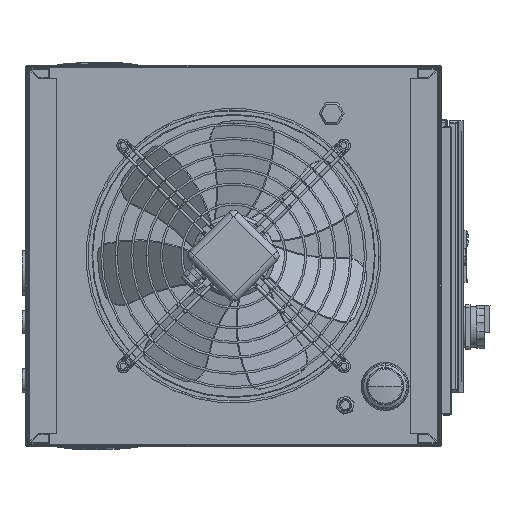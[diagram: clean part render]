
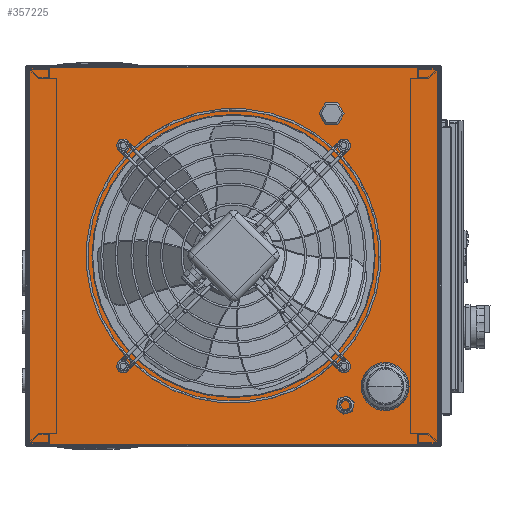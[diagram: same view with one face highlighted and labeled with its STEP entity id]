
A CAD part, top view. The second image highlights one B-rep face of the part: STEP entity #357225.
In plain terms, the highlighted planar face has unit normal (0, 0, 1).
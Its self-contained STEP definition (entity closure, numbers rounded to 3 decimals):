
#5766 = EDGE_LOOP ( 'NONE', ( #342762, #342744, #342750, #342742 ) ) ;
#6377 = EDGE_LOOP ( 'NONE', ( #342708, #342725 ) ) ;
#6925 = EDGE_LOOP ( 'NONE', ( #342718, #342716 ) ) ;
#7001 = EDGE_LOOP ( 'NONE', ( #339483, #339852 ) ) ;
#7061 = EDGE_LOOP ( 'NONE', ( #342733, #342673 ) ) ;
#9257 = EDGE_LOOP ( 'NONE', ( #342702, #342714 ) ) ;
#27870 = CARTESIAN_POINT ( 'NONE',  ( 448.867, -160.867, 443.5 ) ) ;
#28629 = CARTESIAN_POINT ( 'NONE',  ( 127.133, 160.867, 443.5 ) ) ;
#29313 = CARTESIAN_POINT ( 'NONE',  ( 448.867, 160.867, 443.5 ) ) ;
#74735 = AXIS2_PLACEMENT_3D ( 'NONE', #338999, #339002, #339005 ) ;
#74752 = AXIS2_PLACEMENT_3D ( 'NONE', #339107, #339111, #339114 ) ;
#74768 = AXIS2_PLACEMENT_3D ( 'NONE', #339203, #339206, #339210 ) ;
#74786 = AXIS2_PLACEMENT_3D ( 'NONE', #339301, #339304, #339307 ) ;
#74802 = AXIS2_PLACEMENT_3D ( 'NONE', #339395, #339399, #339403 ) ;
#74805 = AXIS2_PLACEMENT_3D ( 'NONE', #339453, #339455, #339458 ) ;
#74810 = AXIS2_PLACEMENT_3D ( 'NONE', #339468, #339471, #339474 ) ;
#74814 = AXIS2_PLACEMENT_3D ( 'NONE', #339482, #339485, #339489 ) ;
#74818 = AXIS2_PLACEMENT_3D ( 'NONE', #339500, #339503, #339505 ) ;
#74823 = AXIS2_PLACEMENT_3D ( 'NONE', #339517, #339520, #339523 ) ;
#145361 = CARTESIAN_POINT ( 'NONE',  ( -3., -275., 443.5 ) ) ;
#156895 = CARTESIAN_POINT ( 'NONE',  ( 467.867, 160.867, 443.5 ) ) ;
#157248 = CARTESIAN_POINT ( 'NONE',  ( 91., 0., 443.5 ) ) ;
#202106 = VERTEX_POINT ( 'NONE', #430849 ) ;
#202110 = VERTEX_POINT ( 'NONE', #430888 ) ;
#202118 = VERTEX_POINT ( 'NONE', #430916 ) ;
#202122 = VERTEX_POINT ( 'NONE', #430934 ) ;
#202135 = VERTEX_POINT ( 'NONE', #431166 ) ;
#202359 = VERTEX_POINT ( 'NONE', #27870 ) ;
#202381 = VERTEX_POINT ( 'NONE', #28629 ) ;
#202407 = VERTEX_POINT ( 'NONE', #29313 ) ;
#202662 = VERTEX_POINT ( 'NONE', #156895 ) ;
#202677 = VERTEX_POINT ( 'NONE', #157248 ) ;
#203067 = VERTEX_POINT ( 'NONE', #220995 ) ;
#203294 = VERTEX_POINT ( 'NONE', #216632 ) ;
#203426 = VERTEX_POINT ( 'NONE', #217310 ) ;
#205028 = VERTEX_POINT ( 'NONE', #145361 ) ;
#216632 = CARTESIAN_POINT ( 'NONE',  ( 598., 275., 443.5 ) ) ;
#217310 = CARTESIAN_POINT ( 'NONE',  ( -3., 275., 443.5 ) ) ;
#220995 = CARTESIAN_POINT ( 'NONE',  ( 127.133, -160.867, 443.5 ) ) ;
#277075 = EDGE_CURVE ( 'NONE', #202677, #202118, #320392, .T. ) ;
#277112 = EDGE_CURVE ( 'NONE', #202407, #202662, #320439, .T. ) ;
#277148 = EDGE_CURVE ( 'NONE', #202381, #202106, #320487, .T. ) ;
#277188 = EDGE_CURVE ( 'NONE', #202359, #202110, #320535, .T. ) ;
#277227 = EDGE_CURVE ( 'NONE', #203067, #202135, #320582, .T. ) ;
#277234 = EDGE_CURVE ( 'NONE', #202122, #205028, #320587, .T. ) ;
#277240 = EDGE_CURVE ( 'NONE', #202122, #203294, #320598, .T. ) ;
#277244 = EDGE_CURVE ( 'NONE', #203294, #203426, #320606, .T. ) ;
#277248 = EDGE_CURVE ( 'NONE', #203426, #205028, #320622, .T. ) ;
#277253 = EDGE_CURVE ( 'NONE', #202135, #203067, #320630, .T. ) ;
#277258 = EDGE_CURVE ( 'NONE', #202110, #202359, #320638, .T. ) ;
#277261 = EDGE_CURVE ( 'NONE', #202106, #202381, #320642, .T. ) ;
#277267 = EDGE_CURVE ( 'NONE', #202662, #202407, #320646, .T. ) ;
#277271 = EDGE_CURVE ( 'NONE', #202118, #202677, #320650, .T. ) ;
#320392 = CIRCLE ( 'NONE', #74735, 206.5 ) ;
#320439 = CIRCLE ( 'NONE', #74752, 9.5 ) ;
#320487 = CIRCLE ( 'NONE', #74768, 9.5 ) ;
#320535 = CIRCLE ( 'NONE', #74786, 9.5 ) ;
#320582 = CIRCLE ( 'NONE', #74802, 9.5 ) ;
#320587 = LINE ( 'NONE', #339393, #320611 ) ;
#320598 = LINE ( 'NONE', #339390, #320618 ) ;
#320606 = LINE ( 'NONE', #339405, #320626 ) ;
#320611 = VECTOR ( 'NONE', #339409, 1000. ) ;
#320618 = VECTOR ( 'NONE', #339417, 1000. ) ;
#320622 = LINE ( 'NONE', #339434, #320635 ) ;
#320626 = VECTOR ( 'NONE', #339426, 1000. ) ;
#320630 = CIRCLE ( 'NONE', #74805, 9.5 ) ;
#320635 = VECTOR ( 'NONE', #339439, 1000. ) ;
#320638 = CIRCLE ( 'NONE', #74810, 9.5 ) ;
#320642 = CIRCLE ( 'NONE', #74814, 9.5 ) ;
#320646 = CIRCLE ( 'NONE', #74818, 9.5 ) ;
#320650 = CIRCLE ( 'NONE', #74823, 206.5 ) ;
#338999 = CARTESIAN_POINT ( 'NONE',  ( 297.5, 0., 443.5 ) ) ;
#339002 = DIRECTION ( 'NONE',  ( 0., 0., 1. ) ) ;
#339005 = DIRECTION ( 'NONE',  ( -1., 0., 0. ) ) ;
#339107 = CARTESIAN_POINT ( 'NONE',  ( 458.367, 160.867, 443.5 ) ) ;
#339111 = DIRECTION ( 'NONE',  ( 0., 0., 1. ) ) ;
#339114 = DIRECTION ( 'NONE',  ( -1., 0., 0. ) ) ;
#339203 = CARTESIAN_POINT ( 'NONE',  ( 136.633, 160.867, 443.5 ) ) ;
#339206 = DIRECTION ( 'NONE',  ( 0., 0., 1. ) ) ;
#339210 = DIRECTION ( 'NONE',  ( 1., 0., 0. ) ) ;
#339301 = CARTESIAN_POINT ( 'NONE',  ( 458.367, -160.867, 443.5 ) ) ;
#339304 = DIRECTION ( 'NONE',  ( 0., 0., 1. ) ) ;
#339307 = DIRECTION ( 'NONE',  ( 1., 0., 0. ) ) ;
#339390 = CARTESIAN_POINT ( 'NONE',  ( 598., 0., 443.5 ) ) ;
#339393 = CARTESIAN_POINT ( 'NONE',  ( 598.929, -275., 443.5 ) ) ;
#339395 = CARTESIAN_POINT ( 'NONE',  ( 136.633, -160.867, 443.5 ) ) ;
#339399 = DIRECTION ( 'NONE',  ( 0., 0., 1. ) ) ;
#339403 = DIRECTION ( 'NONE',  ( -1., 0., 0. ) ) ;
#339405 = CARTESIAN_POINT ( 'NONE',  ( 598.929, 275., 443.5 ) ) ;
#339409 = DIRECTION ( 'NONE',  ( -1., 0., 0. ) ) ;
#339417 = DIRECTION ( 'NONE',  ( 0., 1., 0. ) ) ;
#339426 = DIRECTION ( 'NONE',  ( -1., 0., 0. ) ) ;
#339434 = CARTESIAN_POINT ( 'NONE',  ( -3., 275.929, 443.5 ) ) ;
#339439 = DIRECTION ( 'NONE',  ( 0., -1., 0. ) ) ;
#339453 = CARTESIAN_POINT ( 'NONE',  ( 136.633, -160.867, 443.5 ) ) ;
#339455 = DIRECTION ( 'NONE',  ( 0., 0., 1. ) ) ;
#339458 = DIRECTION ( 'NONE',  ( -1., 0., 0. ) ) ;
#339468 = CARTESIAN_POINT ( 'NONE',  ( 458.367, -160.867, 443.5 ) ) ;
#339471 = DIRECTION ( 'NONE',  ( 0., 0., 1. ) ) ;
#339474 = DIRECTION ( 'NONE',  ( 1., 0., 0. ) ) ;
#339482 = CARTESIAN_POINT ( 'NONE',  ( 136.633, 160.867, 443.5 ) ) ;
#339483 = ORIENTED_EDGE ( 'NONE', *, *, #277271, .F. ) ;
#339485 = DIRECTION ( 'NONE',  ( 0., 0., 1. ) ) ;
#339489 = DIRECTION ( 'NONE',  ( 1., 0., 0. ) ) ;
#339500 = CARTESIAN_POINT ( 'NONE',  ( 458.367, 160.867, 443.5 ) ) ;
#339503 = DIRECTION ( 'NONE',  ( 0., 0., 1. ) ) ;
#339505 = DIRECTION ( 'NONE',  ( -1., 0., 0. ) ) ;
#339517 = CARTESIAN_POINT ( 'NONE',  ( 297.5, 0., 443.5 ) ) ;
#339520 = DIRECTION ( 'NONE',  ( 0., 0., 1. ) ) ;
#339523 = DIRECTION ( 'NONE',  ( -1., 0., 0. ) ) ;
#339852 = ORIENTED_EDGE ( 'NONE', *, *, #277075, .F. ) ;
#342673 = ORIENTED_EDGE ( 'NONE', *, *, #277112, .F. ) ;
#342702 = ORIENTED_EDGE ( 'NONE', *, *, #277253, .F. ) ;
#342708 = ORIENTED_EDGE ( 'NONE', *, *, #277258, .F. ) ;
#342714 = ORIENTED_EDGE ( 'NONE', *, *, #277227, .F. ) ;
#342716 = ORIENTED_EDGE ( 'NONE', *, *, #277148, .F. ) ;
#342718 = ORIENTED_EDGE ( 'NONE', *, *, #277261, .F. ) ;
#342725 = ORIENTED_EDGE ( 'NONE', *, *, #277188, .F. ) ;
#342733 = ORIENTED_EDGE ( 'NONE', *, *, #277267, .F. ) ;
#342742 = ORIENTED_EDGE ( 'NONE', *, *, #277248, .T. ) ;
#342744 = ORIENTED_EDGE ( 'NONE', *, *, #277240, .T. ) ;
#342750 = ORIENTED_EDGE ( 'NONE', *, *, #277244, .T. ) ;
#342762 = ORIENTED_EDGE ( 'NONE', *, *, #277234, .F. ) ;
#357225 = ADVANCED_FACE ( 'NONE', ( #439269, #439278, #439271, #439266, #439273, #439281 ), #420257, .T. ) ;
#402537 = AXIS2_PLACEMENT_3D ( 'NONE', #420296, #420301, #420305 ) ;
#420257 = PLANE ( 'NONE',  #402537 ) ;
#420296 = CARTESIAN_POINT ( 'NONE',  ( 297.5, 0., 443.5 ) ) ;
#420301 = DIRECTION ( 'NONE',  ( 0., 0., 1. ) ) ;
#420305 = DIRECTION ( 'NONE',  ( -1., 0., 0. ) ) ;
#430849 = CARTESIAN_POINT ( 'NONE',  ( 146.133, 160.867, 443.5 ) ) ;
#430888 = CARTESIAN_POINT ( 'NONE',  ( 467.867, -160.867, 443.5 ) ) ;
#430916 = CARTESIAN_POINT ( 'NONE',  ( 504., 0., 443.5 ) ) ;
#430934 = CARTESIAN_POINT ( 'NONE',  ( 598., -275., 443.5 ) ) ;
#431166 = CARTESIAN_POINT ( 'NONE',  ( 146.133, -160.867, 443.5 ) ) ;
#439266 = FACE_BOUND ( 'NONE', #6925, .T. ) ;
#439269 = FACE_OUTER_BOUND ( 'NONE', #5766, .T. ) ;
#439271 = FACE_BOUND ( 'NONE', #6377, .T. ) ;
#439273 = FACE_BOUND ( 'NONE', #7061, .T. ) ;
#439278 = FACE_BOUND ( 'NONE', #9257, .T. ) ;
#439281 = FACE_BOUND ( 'NONE', #7001, .T. ) ;
